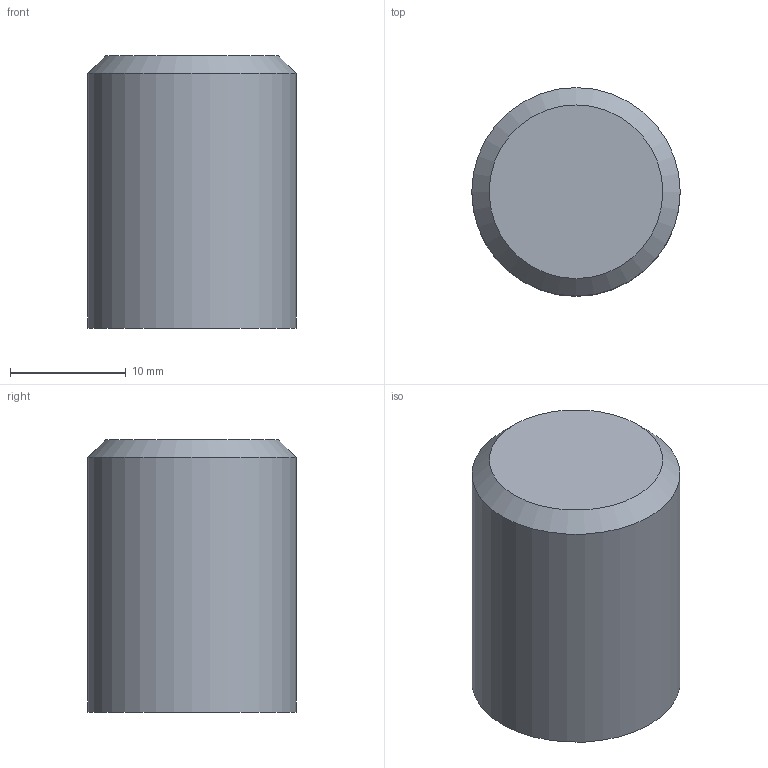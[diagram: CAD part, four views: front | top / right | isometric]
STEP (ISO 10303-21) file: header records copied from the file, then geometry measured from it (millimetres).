
FILE_DESCRIPTION (( 'STEP AP214' ), '1' );
FILE_NAME ('f30605.step', '2024-12-03T16:16:51', ( '' ), ( '' ), 'SwSTEP 2.0', 'SolidWorks 2023', '' );
FILE_SCHEMA (( 'AUTOMOTIVE_DESIGN' ));
Length unit declared in the file: millimetre
Products named in the file (1): f30605
Bounding box: 18 x 18 x 23.5 mm (x, y, z)
Volume: 5919.9 mm3; surface area: 1785.2 mm2
Topology: 1 solids, 1 shells, 4 faces, 5 edges, 3 vertices
Faces by surface type: plane 2, cylinder 1, cone 1
Full cylindrical faces by diameter (mm): 18 x1
Entity records: 97 total; most frequent: DIRECTION 16, CARTESIAN_POINT 11, AXIS2_PLACEMENT_3D 8, EDGE_LOOP 6, ORIENTED_EDGE 6, FACE_OUTER_BOUND 5, ADVANCED_FACE 4, VERTEX_POINT 3
